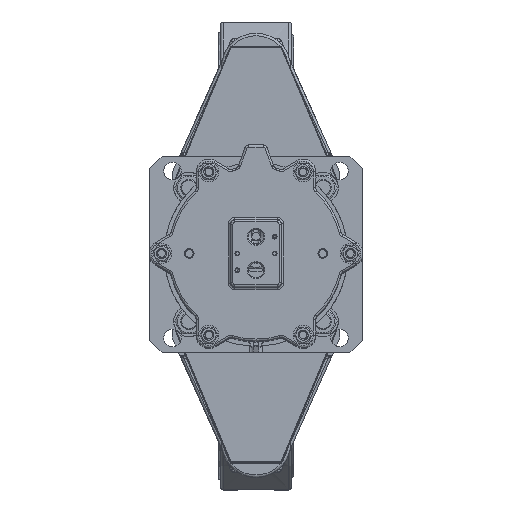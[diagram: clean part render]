
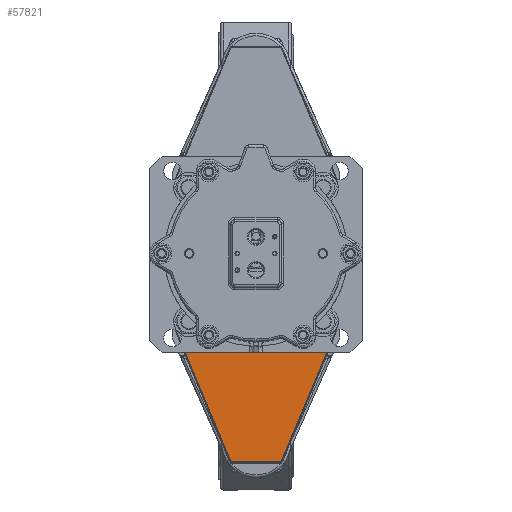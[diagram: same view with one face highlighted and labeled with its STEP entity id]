
A CAD part, top view. The second image highlights one B-rep face of the part: STEP entity #57821.
In plain terms, the highlighted planar face has unit normal (0, 0, 1).
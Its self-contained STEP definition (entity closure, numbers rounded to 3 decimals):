
#2388=PLANE('',#61963);
#5000=FACE_OUTER_BOUND('',#8579,.T.);
#8579=EDGE_LOOP('',(#41415,#41416,#41417,#41418,#41419,#41420,#41421,#41422,
#41423,#41424,#41425,#41426));
#12738=CIRCLE('',#61964,15.);
#12739=CIRCLE('',#61965,15.);
#17497=LINE('',#91869,#21063);
#17498=LINE('',#91871,#21064);
#17499=LINE('',#91873,#21065);
#17500=LINE('',#91875,#21066);
#17501=LINE('',#91877,#21067);
#17502=LINE('',#91879,#21068);
#17503=LINE('',#91881,#21069);
#17504=LINE('',#91883,#21070);
#17505=LINE('',#91885,#21071);
#17506=LINE('',#91888,#21072);
#21063=VECTOR('',#70858,10.);
#21064=VECTOR('',#70859,10.);
#21065=VECTOR('',#70860,10.);
#21066=VECTOR('',#70861,10.);
#21067=VECTOR('',#70862,10.);
#21068=VECTOR('',#70863,10.);
#21069=VECTOR('',#70864,10.);
#21070=VECTOR('',#70865,10.);
#21071=VECTOR('',#70866,10.);
#21072=VECTOR('',#70869,10.);
#25158=VERTEX_POINT('',#91865);
#25159=VERTEX_POINT('',#91866);
#25160=VERTEX_POINT('',#91868);
#25161=VERTEX_POINT('',#91870);
#25162=VERTEX_POINT('',#91872);
#25163=VERTEX_POINT('',#91874);
#25164=VERTEX_POINT('',#91876);
#25165=VERTEX_POINT('',#91878);
#25166=VERTEX_POINT('',#91880);
#25167=VERTEX_POINT('',#91882);
#25168=VERTEX_POINT('',#91884);
#25169=VERTEX_POINT('',#91886);
#31221=EDGE_CURVE('',#25158,#25159,#12738,.T.);
#31222=EDGE_CURVE('',#25160,#25158,#17497,.T.);
#31223=EDGE_CURVE('',#25161,#25160,#17498,.T.);
#31224=EDGE_CURVE('',#25162,#25161,#17499,.T.);
#31225=EDGE_CURVE('',#25163,#25162,#17500,.T.);
#31226=EDGE_CURVE('',#25164,#25163,#17501,.T.);
#31227=EDGE_CURVE('',#25165,#25164,#17502,.T.);
#31228=EDGE_CURVE('',#25166,#25165,#17503,.T.);
#31229=EDGE_CURVE('',#25167,#25166,#17504,.T.);
#31230=EDGE_CURVE('',#25168,#25167,#17505,.T.);
#31231=EDGE_CURVE('',#25169,#25168,#12739,.T.);
#31232=EDGE_CURVE('',#25159,#25169,#17506,.T.);
#41415=ORIENTED_EDGE('',*,*,#31221,.F.);
#41416=ORIENTED_EDGE('',*,*,#31222,.F.);
#41417=ORIENTED_EDGE('',*,*,#31223,.F.);
#41418=ORIENTED_EDGE('',*,*,#31224,.F.);
#41419=ORIENTED_EDGE('',*,*,#31225,.F.);
#41420=ORIENTED_EDGE('',*,*,#31226,.F.);
#41421=ORIENTED_EDGE('',*,*,#31227,.F.);
#41422=ORIENTED_EDGE('',*,*,#31228,.F.);
#41423=ORIENTED_EDGE('',*,*,#31229,.F.);
#41424=ORIENTED_EDGE('',*,*,#31230,.F.);
#41425=ORIENTED_EDGE('',*,*,#31231,.F.);
#41426=ORIENTED_EDGE('',*,*,#31232,.F.);
#57821=ADVANCED_FACE('',(#5000),#2388,.F.);
#61963=AXIS2_PLACEMENT_3D('',#91864,#70854,#70855);
#61964=AXIS2_PLACEMENT_3D('',#91867,#70856,#70857);
#61965=AXIS2_PLACEMENT_3D('',#91887,#70867,#70868);
#70854=DIRECTION('center_axis',(0.,0.,
-1.));
#70855=DIRECTION('ref_axis',(0.,-1.,0.));
#70856=DIRECTION('center_axis',(0.,0.,
1.));
#70857=DIRECTION('ref_axis',(-0.707,-0.707,0.));
#70858=DIRECTION('',(1.,0.,0.));
#70859=DIRECTION('',(0.,1.,0.));
#70860=DIRECTION('',(-0.386,0.923,0.));
#70861=DIRECTION('',(-1.,0.,0.));
#70862=DIRECTION('',(-1.,0.,0.));
#70863=DIRECTION('',(-1.,0.,0.));
#70864=DIRECTION('',(-0.386,-0.923,0.));
#70865=DIRECTION('',(0.,-1.,0.));
#70866=DIRECTION('',(1.,0.,0.));
#70867=DIRECTION('center_axis',(0.,0.,
1.));
#70868=DIRECTION('ref_axis',(-0.796,-0.605,0.));
#70869=DIRECTION('',(1.,0.,0.));
#91864=CARTESIAN_POINT('Origin',(0.,-155.607,
989.7));
#91865=CARTESIAN_POINT('',(-84.067,-94.438,989.7));
#91866=CARTESIAN_POINT('',(-75.933,-94.438,989.7));
#91867=CARTESIAN_POINT('Origin',(-80.,-80.,989.7));
#91868=CARTESIAN_POINT('',(-88.25,-94.438,989.7));
#91869=CARTESIAN_POINT('',(88.25,-94.438,989.7));
#91870=CARTESIAN_POINT('',(-88.25,-108.438,989.7));
#91871=CARTESIAN_POINT('',(-88.25,-94.438,989.7));
#91872=CARTESIAN_POINT('',(-29.98,-247.738,989.7));
#91873=CARTESIAN_POINT('',(-88.25,-108.438,989.7));
#91874=CARTESIAN_POINT('',(-29.534,-247.738,989.7));
#91875=CARTESIAN_POINT('',(-29.98,-247.738,989.7));
#91876=CARTESIAN_POINT('',(29.534,-247.738,989.7));
#91877=CARTESIAN_POINT('',(-29.534,-247.738,989.7));
#91878=CARTESIAN_POINT('',(29.98,-247.738,989.7));
#91879=CARTESIAN_POINT('',(-29.98,-247.738,989.7));
#91880=CARTESIAN_POINT('',(88.25,-108.438,989.7));
#91881=CARTESIAN_POINT('',(29.98,-247.738,989.7));
#91882=CARTESIAN_POINT('',(88.25,-94.438,989.7));
#91883=CARTESIAN_POINT('',(88.25,-108.438,989.7));
#91884=CARTESIAN_POINT('',(84.067,-94.438,989.7));
#91885=CARTESIAN_POINT('',(88.25,-94.438,989.7));
#91886=CARTESIAN_POINT('',(75.933,-94.438,989.7));
#91887=CARTESIAN_POINT('Origin',(80.,-80.,989.7));
#91888=CARTESIAN_POINT('',(88.25,-94.438,989.7));
